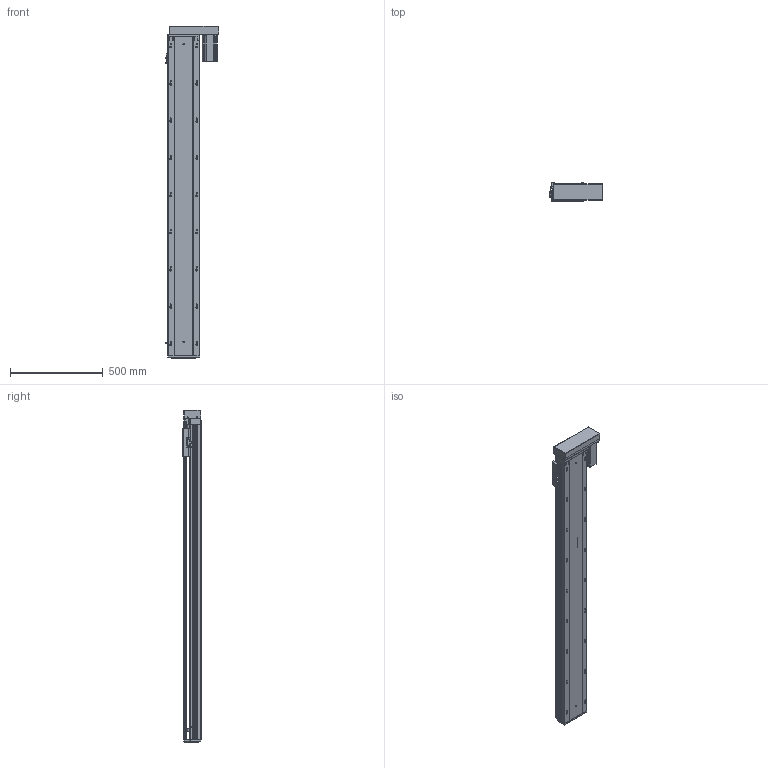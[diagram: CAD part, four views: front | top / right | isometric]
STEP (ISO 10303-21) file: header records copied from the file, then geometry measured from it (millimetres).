
FILE_DESCRIPTION (( 'STEP AP203' ), '1' );
FILE_NAME ('RY170-L2510-1400-RK.SLDASM_1450.step', '2021-03-12T09:37:31', ( '盈信电脑' ), ( '东莞市道滘镇水果街19号' ), 'SwSTEP 2.0', 'SolidWorks 2012', '' );
FILE_SCHEMA (( 'CONFIG_CONTROL_DESIGN' ));
Products named in the file (13): RY170-L2510-1400-RK.SLDASM_1450; RY170外置感应片(200共用）; 覜茼ん672; 怢湛750W萇儂ㄗ80遺ㄘ; RY170-酘衵殏750W萇儂傷; RY170转折电机端支撑座(7004); RY170-左右折电机安装板750W; RY170酘衵殏萇儂欶750W; 滅袉蝶18-20; RY170-1400倰第裔啣-LK_1450; 改造-RY170铝滑块25丝杆螺母; RY170綴裔啣; RY170-1400倰第菁釱-LK_1450
Assembly tree (15 placements, depth 3):
  RY170-L2510-1400-RK.SLDASM_1450
    RY170-1400倰第菁釱-LK_1450
    改造-RY170铝滑块25丝杆螺母
    RY170-1400倰第裔啣-LK_1450
    RY170綴裔啣
    滅袉蝶18-20  x2
    RY170转折电机端支撑座(7004)
    RY170-酘衵殏750W萇儂傷
      RY170-左右折电机安装板750W
      RY170酘衵殏萇儂欶750W
      怢湛750W萇儂ㄗ80遺ㄘ
    覜茼ん672  x3
    RY170外置感应片(200共用）
Bounding box: 286.2 x 97 x 1785 mm (x, y, z)
Volume: 9217485.3 mm3; surface area: 2961804.1 mm2
Topology: 14 solids, 14 shells, 2313 faces, 6646 edges, 4244 vertices
Faces by surface type: plane 1092, cylinder 984, cone 218, bspline 19
Entity records: 74874 total; most frequent: CARTESIAN_POINT 18220, ORIENTED_EDGE 11912, DIRECTION 11030, EDGE_CURVE 5956, VERTEX_POINT 3912, AXIS2_PLACEMENT_3D 3712, VECTOR 3606, LINE 3606
